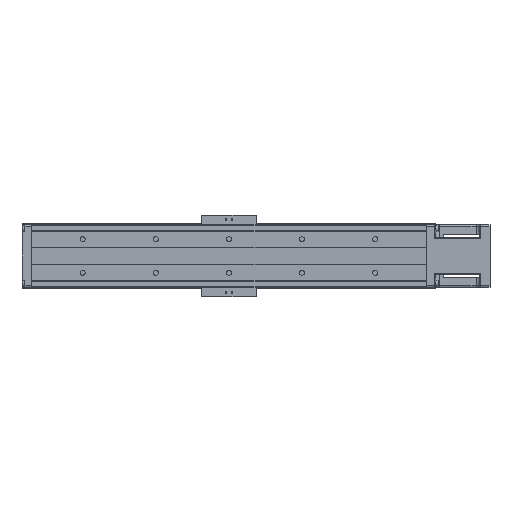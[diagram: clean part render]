
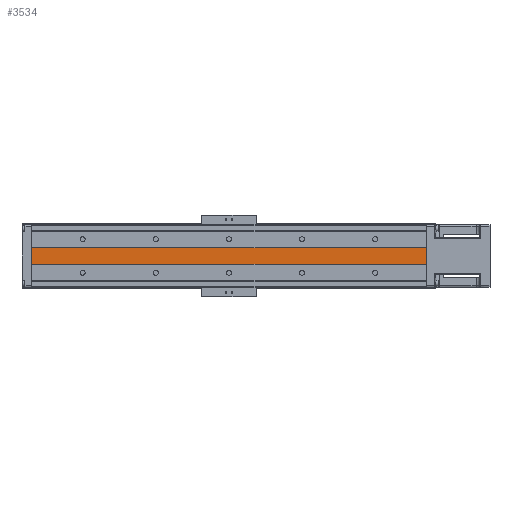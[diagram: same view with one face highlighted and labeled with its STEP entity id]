
A CAD part, front view. The second image highlights one B-rep face of the part: STEP entity #3534.
In plain terms, the highlighted planar face has unit normal (0, -1, 0).
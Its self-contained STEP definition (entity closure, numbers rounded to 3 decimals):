
#388 = VECTOR ( 'NONE', #11483, 1000. ) ;
#562 = CARTESIAN_POINT ( 'NONE',  ( -320., -31.5, -5.5 ) ) ;
#640 = VERTEX_POINT ( 'NONE', #16097 ) ;
#1317 = FACE_OUTER_BOUND ( 'NONE', #22830, .T. ) ;
#2599 = ORIENTED_EDGE ( 'NONE', *, *, #3444, .T. ) ;
#3444 = EDGE_CURVE ( 'NONE', #640, #10014, #15560, .T. ) ;
#3534 = ADVANCED_FACE ( 'NONE', ( #1317 ), #21965, .T. ) ;
#3945 = CARTESIAN_POINT ( 'NONE',  ( 220., -31.5, -11. ) ) ;
#3990 = EDGE_CURVE ( 'NONE', #17639, #640, #17413, .T. ) ;
#4408 = VECTOR ( 'NONE', #8574, 1000. ) ;
#8574 = DIRECTION ( 'NONE',  ( 1., 0., 0. ) ) ;
#9674 = CARTESIAN_POINT ( 'NONE',  ( -520., -31.5, -11. ) ) ;
#10014 = VERTEX_POINT ( 'NONE', #10482 ) ;
#10109 = DIRECTION ( 'NONE',  ( 0., -1., 0. ) ) ;
#10328 = VERTEX_POINT ( 'NONE', #19792 ) ;
#10482 = CARTESIAN_POINT ( 'NONE',  ( 220., -31.5, -11. ) ) ;
#11213 = VECTOR ( 'NONE', #12337, 1000. ) ;
#11483 = DIRECTION ( 'NONE',  ( 1., 0., 0. ) ) ;
#12337 = DIRECTION ( 'NONE',  ( 0., 0., -1. ) ) ;
#14479 = ORIENTED_EDGE ( 'NONE', *, *, #23156, .F. ) ;
#14984 = CARTESIAN_POINT ( 'NONE',  ( -320., -31.5, 11. ) ) ;
#14988 = AXIS2_PLACEMENT_3D ( 'NONE', #3945, #10109, #21608 ) ;
#15560 = LINE ( 'NONE', #9674, #388 ) ;
#16097 = CARTESIAN_POINT ( 'NONE',  ( -320., -31.5, -11. ) ) ;
#16511 = DIRECTION ( 'NONE',  ( 0., 0., -1. ) ) ;
#17413 = LINE ( 'NONE', #562, #19561 ) ;
#17639 = VERTEX_POINT ( 'NONE', #14984 ) ;
#18049 = LINE ( 'NONE', #20170, #4408 ) ;
#19561 = VECTOR ( 'NONE', #16511, 1000. ) ;
#19650 = ORIENTED_EDGE ( 'NONE', *, *, #3990, .T. ) ;
#19792 = CARTESIAN_POINT ( 'NONE',  ( 220., -31.5, 11. ) ) ;
#20147 = CARTESIAN_POINT ( 'NONE',  ( 220., -31.5, 11. ) ) ;
#20170 = CARTESIAN_POINT ( 'NONE',  ( -520., -31.5, 11. ) ) ;
#21608 = DIRECTION ( 'NONE',  ( -1., 0., 0. ) ) ;
#21965 = PLANE ( 'NONE',  #14988 ) ;
#22614 = ORIENTED_EDGE ( 'NONE', *, *, #24028, .F. ) ;
#22830 = EDGE_LOOP ( 'NONE', ( #19650, #2599, #22614, #14479 ) ) ;
#23156 = EDGE_CURVE ( 'NONE', #17639, #10328, #18049, .T. ) ;
#23327 = LINE ( 'NONE', #20147, #11213 ) ;
#24028 = EDGE_CURVE ( 'NONE', #10328, #10014, #23327, .T. ) ;
